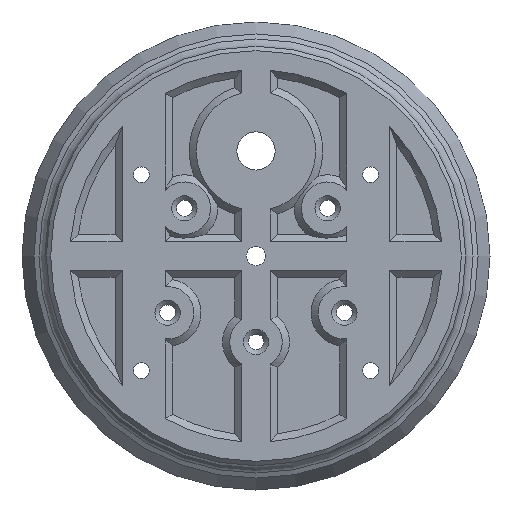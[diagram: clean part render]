
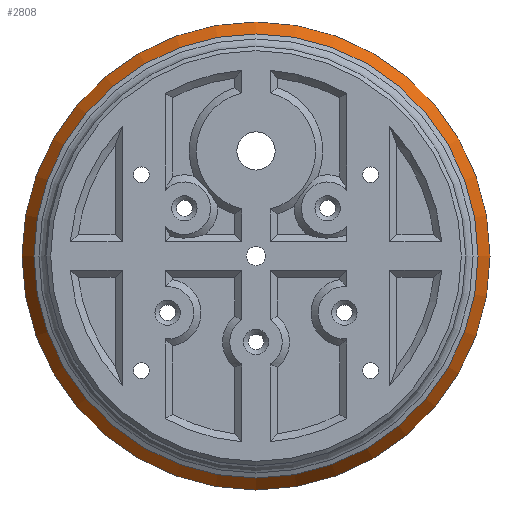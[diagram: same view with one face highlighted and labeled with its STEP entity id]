
A CAD part, front view. The second image highlights one B-rep face of the part: STEP entity #2808.
In plain terms, the highlighted conical face has half-angle 30 degrees and reference radius 47.75 mm.
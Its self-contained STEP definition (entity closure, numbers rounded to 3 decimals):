
#124=CONICAL_SURFACE('',#3136,47.75,0.524);
#406=FACE_OUTER_BOUND('',#612,.T.);
#612=EDGE_LOOP('',(#2579,#2580,#2581,#2582));
#797=LINE('',#5038,#981);
#981=VECTOR('',#3931,47.75);
#1124=CIRCLE('',#3135,49.);
#1125=CIRCLE('',#3137,46.5);
#1386=VERTEX_POINT('',#5032);
#1387=VERTEX_POINT('',#5036);
#1784=EDGE_CURVE('',#1386,#1386,#1124,.T.);
#1786=EDGE_CURVE('',#1387,#1387,#1125,.T.);
#1787=EDGE_CURVE('',#1387,#1386,#797,.T.);
#2579=ORIENTED_EDGE('',*,*,#1786,.F.);
#2580=ORIENTED_EDGE('',*,*,#1787,.T.);
#2581=ORIENTED_EDGE('',*,*,#1784,.T.);
#2582=ORIENTED_EDGE('',*,*,#1787,.F.);
#2808=ADVANCED_FACE('',(#406),#124,.T.);
#3135=AXIS2_PLACEMENT_3D('',#5033,#3924,#3925);
#3136=AXIS2_PLACEMENT_3D('',#5035,#3927,#3928);
#3137=AXIS2_PLACEMENT_3D('',#5037,#3929,#3930);
#3924=DIRECTION('center_axis',(0.,-1.,0.));
#3925=DIRECTION('ref_axis',(1.,0.,0.));
#3927=DIRECTION('center_axis',(0.,1.,0.));
#3928=DIRECTION('ref_axis',(1.,0.,0.));
#3929=DIRECTION('center_axis',(0.,-1.,0.));
#3930=DIRECTION('ref_axis',(1.,0.,0.));
#3931=DIRECTION('',(-0.5,0.866,0.));
#5032=CARTESIAN_POINT('',(-49.,9.,0.));
#5033=CARTESIAN_POINT('Origin',(0.,9.,0.));
#5035=CARTESIAN_POINT('Origin',(0.,6.835,0.));
#5036=CARTESIAN_POINT('',(-46.5,4.67,0.));
#5037=CARTESIAN_POINT('Origin',(0.,4.67,0.));
#5038=CARTESIAN_POINT('',(-47.75,6.835,0.));
